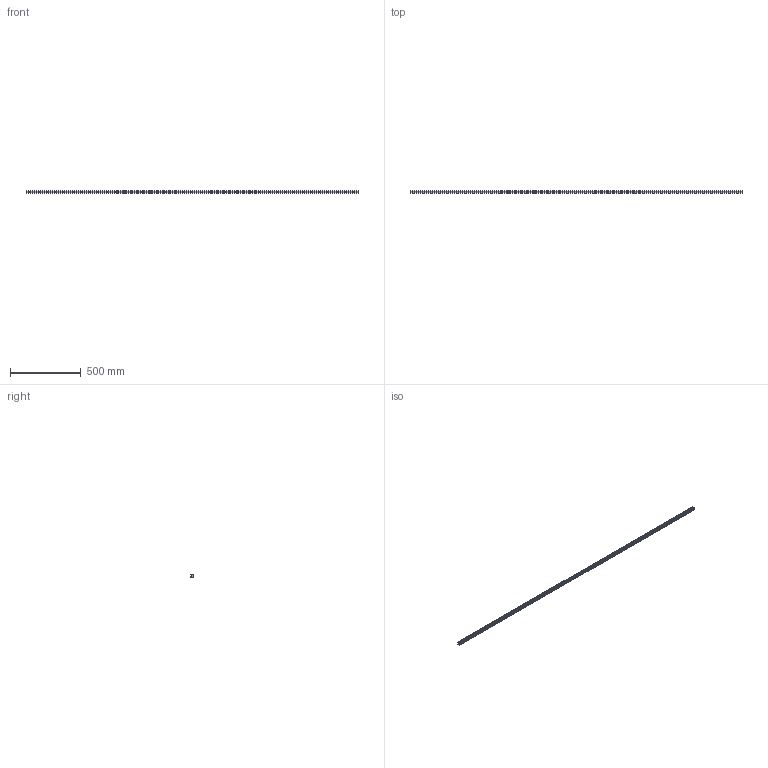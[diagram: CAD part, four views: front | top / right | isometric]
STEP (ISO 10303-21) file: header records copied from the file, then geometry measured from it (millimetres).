
FILE_DESCRIPTION (( 'STEP AP203' ), '1' );
FILE_NAME ('L1018.20R-2340.step', '2023-08-06T09:12:18', ( '' ), ( '' ), 'SwSTEP 2.0', 'SolidWorks 2019', '' );
FILE_SCHEMA (( 'CONFIG_CONTROL_DESIGN' ));
Length unit declared in the file: millimetre
Products named in the file (1): L1018.20R-2340
Bounding box: 2340 x 19.3 x 20 mm (x, y, z)
Volume: 742080.2 mm3; surface area: 198126.1 mm2
Topology: 1 solids, 1 shells, 380 faces, 861 edges, 483 vertices
Faces by surface type: cylinder 159, cone 156, plane 65
Entity records: 10124 total; most frequent: DIRECTION 1941, CARTESIAN_POINT 1647, ORIENTED_EDGE 1566, EDGE_CURVE 783, AXIS2_PLACEMENT_3D 777, VERTEX_POINT 483, EDGE_LOOP 458, CIRCLE 396
